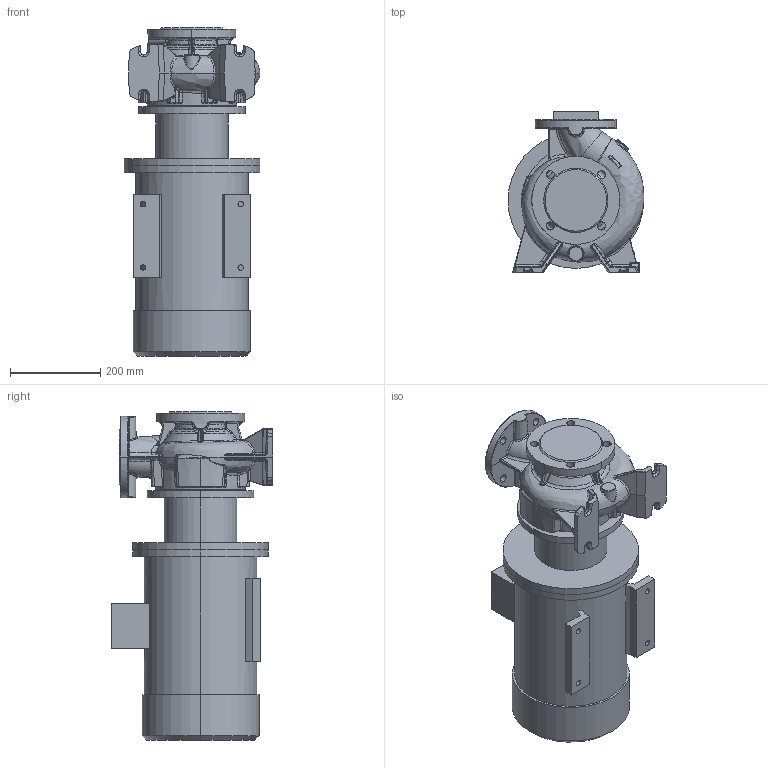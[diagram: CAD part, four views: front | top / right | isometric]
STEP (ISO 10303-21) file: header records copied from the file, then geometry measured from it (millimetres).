
FILE_DESCRIPTION (( 'STEP AP203' ), '1' );
FILE_NAME ('KRM 80-65-125-2-7,5.STEP', '2026-05-07T12:25:20', ( '' ), ( '' ), 'SwSTEP 2.0', 'SolidWorks 2016', '' );
FILE_SCHEMA (( 'CONFIG_CONTROL_DESIGN' ));
Length unit declared in the file: millimetre
Products named in the file (1): KRM 80-65-125-2-7,5
Bounding box: 300.66 x 358 x 726.3 mm (x, y, z)
Volume: 34313457.5 mm3; surface area: 1334572.9 mm2
Topology: 4 solids, 4 shells, 1009 faces, 2411 edges, 1414 vertices
Faces by surface type: bspline 488, cylinder 225, plane 159, cone 67, torus 63, sphere 7
Entity records: 58604 total; most frequent: CARTESIAN_POINT 39113, ORIENTED_EDGE 4782, DIRECTION 3151, EDGE_CURVE 2391, VERTEX_POINT 1414, AXIS2_PLACEMENT_3D 1331, EDGE_LOOP 1057, ADVANCED_FACE 1009
